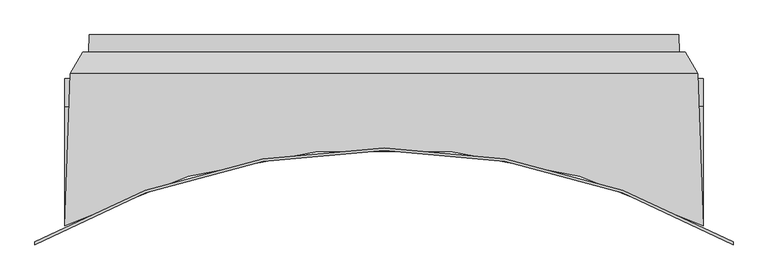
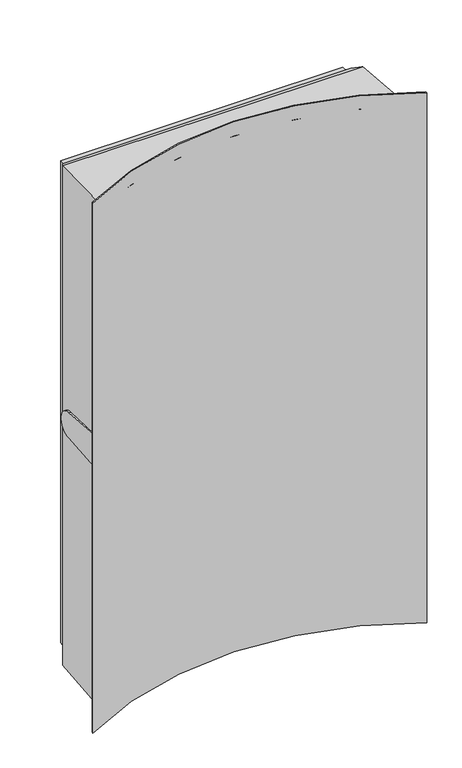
"""IFC4 building model written with IfcOpenShell, lengths in millimetres: proxy geometry, SU.1500x2700ManwayRiserAdaptor.3500."""

from ifc_helpers import new_model, si_unit, frame, origin, place, context, project, spatial, polyline, circle_curve, ellipse_curve, source, transform, mapped, element, save
from ifc_brep_helpers import plane_surface, cylinder_surface, revolved_surface, advanced_brep


def generic_models_3c154cac(model_context):
    return source(origin(), model_context, "Body", "AdvancedBrep", [
        advanced_brep(
        [(-741.5036573, 0.0, -1341.5036573), (741.5036573, 0.0, -1341.5036573), (743.0401711, -44.0, -1343.0401711), (-743.0401711, -44.0, -1343.0401711), (758.3020983, -44.0, 1358.3020983), (758.3020983, -44.0, -1358.3020983), (-758.3020983, -44.0, -1358.3020983), (-758.3020983, -44.0, 1358.3020983), (743.0401711, -44.0, 1343.0401711), (-743.0401711, -44.0, 1343.0401711), (-741.5036573, 0.0, 1341.5036573), (741.5036573, 0.0, 1341.5036573), (-792.5028289, -180.0, 70.0), (-803.009418, -480.8693451, 94.0488248), (-803.009418, -480.8693451, 1403.009418), (-789.6496465, -98.2955463, 1389.6496465), (-789.6496465, -98.2955463, -1389.6496465), (-803.009418, -480.8693451, -1403.009418), (-803.009418, -480.8693451, -94.0488248), (-792.5028289, -180.0, -70.0), (-803.25, -480.9936154, -94.0587578), (-803.25, -180.0, -70.0), (878.2496957, -522.0934894, 1475.0), (878.2496957, -522.0934894, -1475.0), (-878.2496957, -522.0934894, -1475.0), (-878.2496957, -522.0934894, 1475.0), (-803.25, -480.9936154, 94.0587578), (803.009418, -480.8693451, -1403.009418), (803.009418, -480.8693451, -94.0488248), (803.25, -480.9936154, -94.0587578), (803.25, -480.9936154, 94.0587578), (803.009418, -480.8693451, 94.0488248), (803.009418, -480.8693451, 1403.009418), (-803.25, -180.0, 70.0), (803.25, -180.0, 70.0), (792.5028289, -180.0, 70.0), (803.25, -180.0, -70.0), (792.5028289, -180.0, -70.0), (789.6496465, -98.2955463, -1389.6496465), (789.6496465, -98.2955463, 1389.6496465), (878.2496957, -529.0343233, -1475.0), (878.2496957, -529.0343233, 1475.0), (-878.2496957, -529.0343233, 1475.0), (-878.2496957, -529.0343233, -1475.0)],
        [
            (0, 1),
            (1, 2),
            (2, 3),
            (3, 0),
            (4, 5),
            (5, 6),
            (6, 7),
            (7, 4),
            (2, 8),
            (8, 9),
            (9, 3),
            (10, 0),
            (9, 10),
            (11, 10),
            (8, 11),
            (1, 11),
            (12, 13),
            (13, 14),
            (14, 15),
            (15, 16),
            (16, 17),
            (17, 18),
            (18, 19),
            (19, 12, ellipse_curve(frame((-792.5028289, -180.0, 0.0), z_axis=(0.9993908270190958, -0.034899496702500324, 0.0), x_axis=(0.03489949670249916, 0.9993908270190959, 0.0)), 70.0426681, 70.0)),
            (18, 20, ellipse_curve(frame((0.0, -2035.7570821, -218.3327485), z_axis=(0.0, -0.0796770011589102, 0.99682073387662), x_axis=(0.0, 0.99682073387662, 0.0796770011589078)), 1755.5814607, 1750.0)),
            (20, 21),
            (21, 19),
            (22, 23),
            (23, 24, circle_curve(frame((0.0, -2035.7570821, -1475.0), z_axis=(0.0, 0.0, 1.0), x_axis=(0.5018569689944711, 0.8649506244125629, 0.0)), 1750.0)),
            (24, 25),
            (25, 22, circle_curve(frame((0.0, -2035.7570821, 1475.0), z_axis=(0.0, 0.0, -1.0), x_axis=(0.5018569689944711, 0.8649506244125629, 0.0)), 1750.0)),
            (13, 26, ellipse_curve(frame((0.0, -2035.7570821, 218.3327485), z_axis=(0.0, 0.07967700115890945, 0.99682073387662), x_axis=(0.0, -0.99682073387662, 0.07967700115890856)), 1755.5814607, 1750.0)),
            (26, 20),
            (17, 27, ellipse_curve(frame((0.0, -2035.7570821, -1457.3072942), z_axis=(0.0, 0.034899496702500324, -0.9993908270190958), x_axis=(0.0, 0.9993908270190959, 0.03489949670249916)), 1751.0667025, 1750.0)),
            (27, 28),
            (28, 29, ellipse_curve(frame((0.0, -2035.7570821, -218.3327485), z_axis=(0.0, 0.0796770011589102, -0.99682073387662), x_axis=(0.0, 0.99682073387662, 0.0796770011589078)), 1755.5814607, 1750.0)),
            (29, 30),
            (30, 31, ellipse_curve(frame((0.0, -2035.7570821, 218.3327485), z_axis=(0.0, 0.07967700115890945, 0.99682073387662), x_axis=(0.0, -0.99682073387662, 0.07967700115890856)), 1755.5814607, 1750.0)),
            (31, 32),
            (32, 14, ellipse_curve(frame((0.0, -2035.7570821, 1457.3072942), z_axis=(0.0, 0.034899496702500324, 0.9993908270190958), x_axis=(0.0, -0.9993908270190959, 0.03489949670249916)), 1751.0667025, 1750.0)),
            (26, 33),
            (33, 21, circle_curve(frame((-803.25, -180.0, 0.0), z_axis=(-1.0, 0.0, 0.0), x_axis=(0.0, 0.0, -1.0)), 70.0)),
            (33, 12),
            (34, 35),
            (35, 31),
            (30, 34),
            (34, 36, circle_curve(frame((803.25, -180.0, 0.0), z_axis=(-1.0, 0.0, 0.0), x_axis=(0.0, 0.0, -1.0)), 70.0)),
            (36, 37),
            (37, 35, ellipse_curve(frame((792.5028289, -180.0, 0.0), z_axis=(0.9993908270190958, 0.03489949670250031, 0.0), x_axis=(0.034899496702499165, -0.9993908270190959, 0.0)), 70.0426681, 70.0)),
            (29, 36),
            (28, 37),
            (27, 38),
            (38, 39),
            (39, 32),
            (16, 38),
            (38, 5),
            (4, 39),
            (16, 6),
            (15, 7),
            (39, 15),
            (40, 41),
            (41, 42, circle_curve(frame((0.0, -2035.7570821, 1475.0), z_axis=(0.0, 0.0, 1.0), x_axis=(-0.5035835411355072, -0.8639465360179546, 0.0)), 1744.0)),
            (42, 43),
            (43, 40, circle_curve(frame((0.0, -2035.7570821, -1475.0), z_axis=(0.0, 0.0, -1.0), x_axis=(-0.5035835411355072, -0.8639465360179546, 0.0)), 1744.0)),
            (40, 23),
            (22, 41),
            (42, 25),
            (24, 43),
        ],
        [
            plane_surface(frame((700.0, 0.0, -1341.5036573), z_axis=(0.0, 0.03489949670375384, -0.999390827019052), x_axis=(0.0, -0.999390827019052, -0.03489949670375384))),
            plane_surface(frame((700.0, -44.0, -1343.0401711), z_axis=(0.0, 1.0, 0.0), x_axis=(0.0, 0.0, -1.0))),
            plane_surface(frame((-741.5036573, 0.0, -1300.0), z_axis=(-0.999390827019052, 0.034899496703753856, 0.0), x_axis=(-0.034899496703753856, -0.999390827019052, 0.0))),
            plane_surface(frame((-700.0, 0.0, 1341.5036573), z_axis=(0.0, 0.03489949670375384, 0.999390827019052), x_axis=(0.0, -0.999390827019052, 0.03489949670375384))),
            plane_surface(frame((741.5036573, 0.0, 1300.0), z_axis=(0.999390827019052, 0.034899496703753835, 0.0), x_axis=(0.034899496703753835, -0.999390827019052, 0.0))),
            plane_surface(frame((-789.6496465, -98.2955463, -1300.0), z_axis=(-0.9993908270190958, 0.034899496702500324, 0.0), x_axis=(-0.034899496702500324, -0.9993908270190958, 0.0))),
            plane_surface(frame((0.0, -487.75, -94.5988032), z_axis=(0.0, 0.0796770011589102, -0.99682073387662), x_axis=(0.0, 0.99682073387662, 0.0796770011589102))),
            cylinder_surface(frame((0.0, -2035.7570821, 0.0), z_axis=(0.0, 0.0, 1.0), x_axis=(0.5018569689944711, 0.8649506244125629, 0.0)), 1750.0),
            plane_surface(frame((-803.25, -298.875, 0.0), z_axis=(-1.0, 0.0, 0.0), x_axis=(0.0, 0.0, -1.0))),
            cylinder_surface(frame((0.0, -180.0, 0.0), z_axis=(1.0, 0.0, 0.0), x_axis=(0.0, 0.0, -1.0)), 70.0),
            plane_surface(frame((0.0, -180.0, 70.0), z_axis=(0.0, 0.07967700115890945, 0.99682073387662), x_axis=(0.0, -0.99682073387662, 0.07967700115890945))),
            plane_surface(frame((803.25, -298.875, 0.0), z_axis=(1.0, 0.0, 0.0), x_axis=(0.0, 0.0, -1.0))),
            plane_surface(frame((789.6496465, -98.2955463, 1300.0), z_axis=(0.9993908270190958, 0.03489949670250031, 0.0), x_axis=(0.03489949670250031, -0.9993908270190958, 0.0))),
            plane_surface(frame((700.0, -98.2955463, -1389.6496465), z_axis=(0.0, 0.034899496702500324, -0.9993908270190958), x_axis=(0.0, -0.9993908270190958, -0.034899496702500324))),
            plane_surface(frame((758.3020983, -44.0, 1300.0), z_axis=(0.8660254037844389, 0.4999999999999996, 0.0), x_axis=(0.4999999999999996, -0.8660254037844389, 0.0))),
            plane_surface(frame((700.0, -44.0, -1358.3020983), z_axis=(0.0, 0.49999999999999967, -0.8660254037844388), x_axis=(0.0, -0.8660254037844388, -0.49999999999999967))),
            plane_surface(frame((-758.3020983, -44.0, -1300.0), z_axis=(-0.8660254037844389, 0.4999999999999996, 0.0), x_axis=(-0.4999999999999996, -0.8660254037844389, 0.0))),
            plane_surface(frame((-700.0, -98.2955463, 1389.6496465), z_axis=(0.0, 0.034899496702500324, 0.9993908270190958), x_axis=(0.0, -0.9993908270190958, 0.034899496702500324))),
            plane_surface(frame((-700.0, -44.0, 1358.3020983), z_axis=(0.0, 0.4999999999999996, 0.8660254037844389), x_axis=(0.0, -0.8660254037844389, 0.4999999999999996))),
            revolved_surface(polyline([(-878.2496957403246, -3542.4798409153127, 1475.0), (-878.2496957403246, -3542.4798409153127, -1475.0)]), (0.0, -2035.7570821, 0.0), (0.0, 0.0, 1.0)),
            plane_surface(frame((878.2496957, -529.0343233, 0.0), z_axis=(1.0, 0.0, 0.0), x_axis=(0.0, 1.0, 0.0))),
            plane_surface(frame((-878.2496957, -522.0934894, 0.0), z_axis=(-1.0, 0.0, 0.0), x_axis=(0.0, -1.0, 0.0))),
            plane_surface(frame((0.0, -407.3957027, 1475.0), z_axis=(0.0, 0.0, 1.0), x_axis=(1.0, 0.0, 0.0))),
            plane_surface(frame((0.0, -407.3957027, -1475.0), z_axis=(0.0, 0.0, -1.0), x_axis=(1.0, 0.0, 0.0))),
            plane_surface(frame((700.0, 0.0, -1335.5), z_axis=(0.0, 1.0, 0.0), x_axis=(0.0, 0.0, -1.0))),
        ],
        [
            (0, [[1, 2, 3, 4]]),
            (1, [[5, 6, 7, 8], [9, 10, 11, -3]]),
            (2, [[12, -4, -11, 13]]),
            (3, [[14, -13, -10, 15]]),
            (4, [[16, -15, -9, -2]]),
            (5, [[17, 18, 19, 20, 21, 22, 23, 24]]),
            (6, [[-23, 25, 26, 27]]),
            (7, [[28, 29, 30, 31], [32, 33, -25, -22, 34, 35, 36, 37, 38, 39, 40, -18]]),
            (8, [[41, 42, -26, -33]]),
            (9, [[43, -24, -27, -42]]),
            (10, [[44, 45, -38, 46]]),
            (9, [[-44, 47, 48, 49]]),
            (11, [[-47, -46, -37, 50]]),
            (6, [[-48, -50, -36, 51]]),
            (12, [[-45, -49, -51, -35, 52, 53, 54, -39]]),
            (10, [[-17, -43, -41, -32]]),
            (13, [[-52, -34, -21, 55]]),
            (14, [[-53, 56, -5, 57]]),
            (15, [[-55, 58, -6, -56]]),
            (16, [[-20, 59, -7, -58]]),
            (17, [[-19, -40, -54, 60]]),
            (18, [[-60, -57, -8, -59]]),
            (19, [[61, 62, 63, 64]]),
            (20, [[-61, 65, -28, 66]]),
            (21, [[-63, 67, -30, 68]]),
            (22, [[-66, -31, -67, -62]]),
            (23, [[-64, -68, -29, -65]]),
            (24, [[-1, -12, -14, -16]]),
        ],
    ),
    ])


if __name__ == "__main__":
    model = new_model("IFC4")
    model_context = context("Model", 3, world=origin())
    ifc_project = project(units=[si_unit("LENGTHUNIT", "METRE", prefix="MILLI")], contexts=[model_context])
    site = spatial("IfcSite", under=ifc_project)
    building = spatial("IfcBuilding", under=site)
    placement = place(None, origin())
    generic_models_shape = generic_models_3c154cac(model_context)
    element("IfcBuildingElementProxy", 1, Name="SU.1500x2700ManwayRiserAdaptor.3500", ObjectType="SU.1500x2700ManwayRiserAdaptor.3500", at=placement, inside=building, context=model_context, shape_type="MappedRepresentation", body=[
        mapped(generic_models_shape, transform((0.0, 0.0, 0.0), x_axis=(1.0, 0.0, 0.0), y_axis=(0.0, 1.0, 0.0), z_axis=(0.0, 0.0, 1.0))),
    ])
    save(model, "model.ifc")
